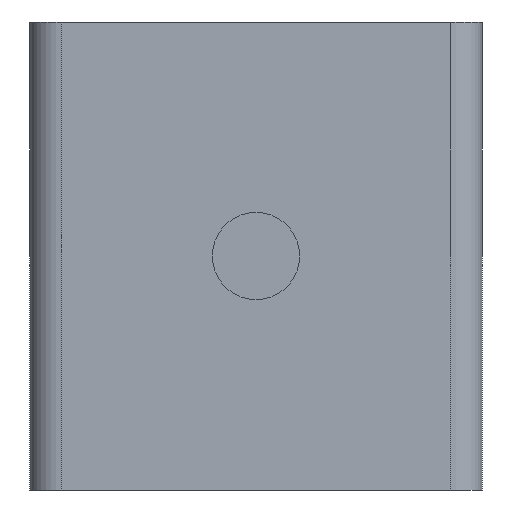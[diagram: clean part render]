
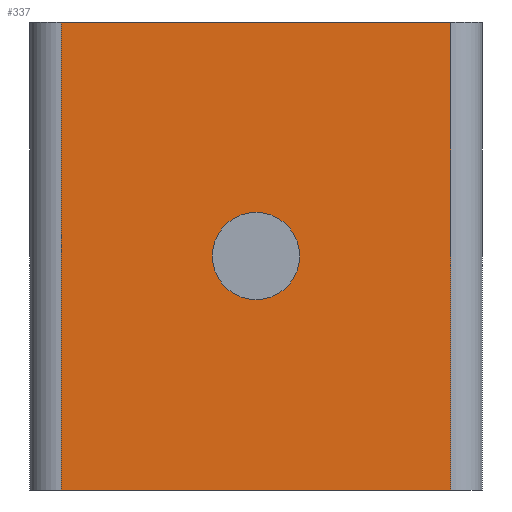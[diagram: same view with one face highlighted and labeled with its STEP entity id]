
A CAD part, left-side view. The second image highlights one B-rep face of the part: STEP entity #337.
In plain terms, the highlighted planar face has unit normal (-1, 0, 0).
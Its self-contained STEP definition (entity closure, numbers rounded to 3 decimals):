
#17=FACE_BOUND('',#69,.T.);
#30=PLANE('',#379);
#48=FACE_OUTER_BOUND('',#68,.T.);
#68=EDGE_LOOP('',(#310,#311,#312,#313));
#69=EDGE_LOOP('',(#314));
#70=LINE('',#479,#105);
#75=LINE('',#491,#110);
#82=LINE('',#507,#117);
#104=LINE('',#565,#139);
#105=VECTOR('',#386,10.);
#110=VECTOR('',#397,10.);
#117=VECTOR('',#408,10.);
#139=VECTOR('',#470,10.);
#144=CIRCLE('',#362,4.15);
#151=VERTEX_POINT('',#476);
#152=VERTEX_POINT('',#478);
#156=VERTEX_POINT('',#490);
#163=VERTEX_POINT('',#506);
#166=VERTEX_POINT('',#516);
#181=EDGE_CURVE('',#151,#152,#70,.T.);
#187=EDGE_CURVE('',#156,#152,#75,.T.);
#195=EDGE_CURVE('',#156,#163,#82,.T.);
#200=EDGE_CURVE('',#166,#166,#144,.T.);
#224=EDGE_CURVE('',#151,#163,#104,.T.);
#310=ORIENTED_EDGE('',*,*,#181,.F.);
#311=ORIENTED_EDGE('',*,*,#224,.T.);
#312=ORIENTED_EDGE('',*,*,#195,.F.);
#313=ORIENTED_EDGE('',*,*,#187,.T.);
#314=ORIENTED_EDGE('',*,*,#200,.T.);
#337=ADVANCED_FACE('',(#48,#17),#30,.F.);
#362=AXIS2_PLACEMENT_3D('',#517,#418,#419);
#379=AXIS2_PLACEMENT_3D('',#566,#471,#472);
#386=DIRECTION('',(0.,0.,1.));
#397=DIRECTION('',(0.,1.,0.));
#408=DIRECTION('',(0.,0.,-1.));
#418=DIRECTION('center_axis',(1.,0.,0.));
#419=DIRECTION('ref_axis',(0.,-1.,0.));
#470=DIRECTION('',(0.,-1.,0.));
#471=DIRECTION('center_axis',(1.,0.,0.));
#472=DIRECTION('ref_axis',(0.,1.,0.));
#476=CARTESIAN_POINT('',(4.,18.5,-22.25));
#478=CARTESIAN_POINT('',(4.,18.5,22.25));
#479=CARTESIAN_POINT('',(4.,18.5,-11.125));
#490=CARTESIAN_POINT('',(4.,-18.5,22.25));
#491=CARTESIAN_POINT('',(4.,-21.5,22.25));
#506=CARTESIAN_POINT('',(4.,-18.5,-22.25));
#507=CARTESIAN_POINT('',(4.,-18.5,11.125));
#516=CARTESIAN_POINT('',(4.,4.15,0.));
#517=CARTESIAN_POINT('Origin',(4.,0.,0.));
#565=CARTESIAN_POINT('',(4.,21.5,-22.25));
#566=CARTESIAN_POINT('Origin',(4.,0.,0.));
